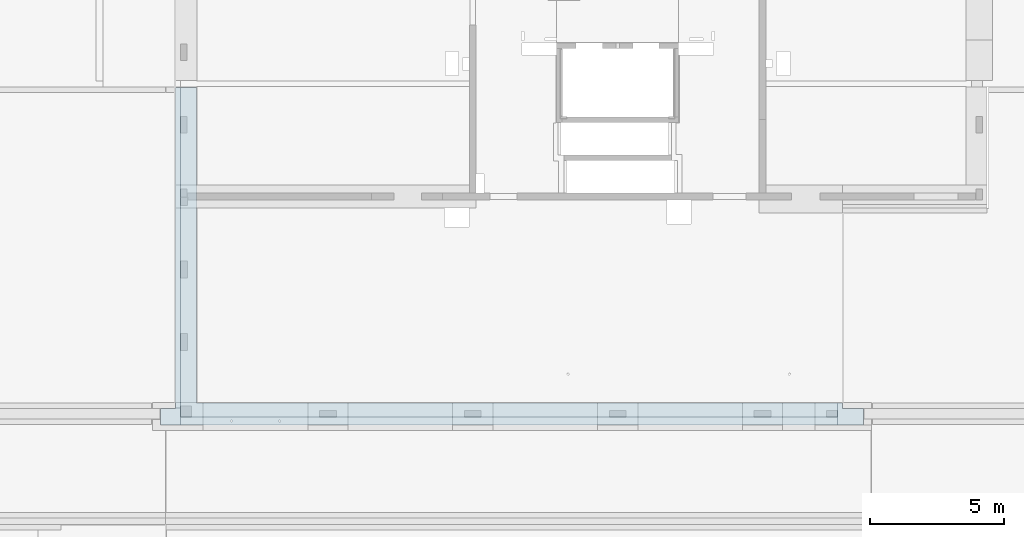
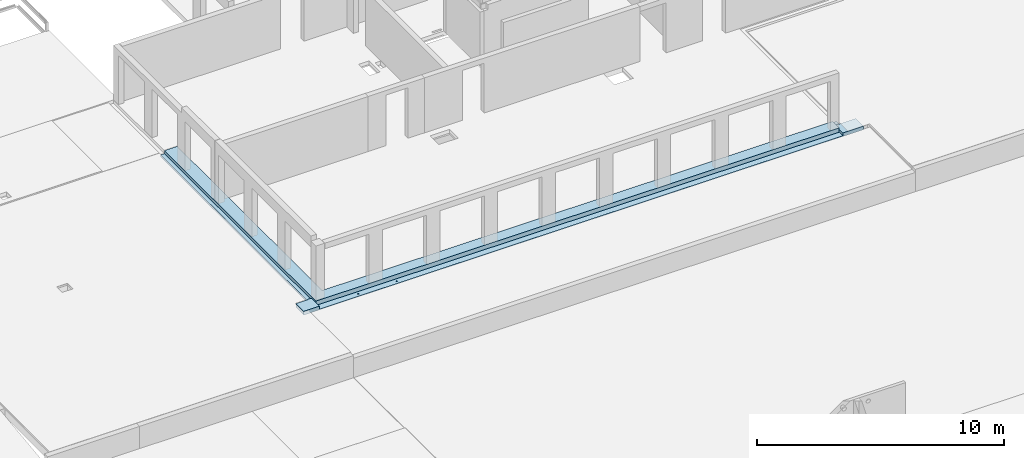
# One storey, part 33 of 36: 1 slab.
"""IFC2X3 building model written with IfcOpenShell, lengths in millimetres."""

from ifc_helpers import new_model, entity, si_unit, converted_unit, derived_unit, direction, frame, origin, place, context, subcontext, project, spatial, faceted_brep, element, save


model = new_model("IFC2X3")

# Units and contexts
model_context = context("Model", 3, precision=0.01, world=origin(), true_north=direction((6.12303176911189e-17, 1.0)))
body_context = subcontext(model_context, "Body", "Model", "MODEL_VIEW")
ifc_project = project(units=[si_unit("LENGTHUNIT", "METRE", prefix="MILLI"), si_unit("AREAUNIT", "SQUARE_METRE"), si_unit("VOLUMEUNIT", "CUBIC_METRE"), converted_unit("PLANEANGLEUNIT", "DEGREE", entity("IfcRatioMeasure", 0.0174532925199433), si_unit("PLANEANGLEUNIT", "RADIAN"), dimensions=[0, 0, 0, 0, 0, 0, 0]), si_unit("MASSUNIT", "GRAM", prefix="KILO"), derived_unit("MASSDENSITYUNIT", [(si_unit("MASSUNIT", "GRAM", prefix="KILO"), 1), (si_unit("LENGTHUNIT", "METRE"), -3)]), si_unit("TIMEUNIT", "SECOND"), si_unit("FREQUENCYUNIT", "HERTZ"), si_unit("THERMODYNAMICTEMPERATUREUNIT", "DEGREE_CELSIUS"), derived_unit("THERMALTRANSMITTANCEUNIT", [(si_unit("MASSUNIT", "GRAM", prefix="KILO"), 1), (si_unit("THERMODYNAMICTEMPERATUREUNIT", "KELVIN"), -1), (si_unit("TIMEUNIT", "SECOND"), -3)]), derived_unit("VOLUMETRICFLOWRATEUNIT", [(si_unit("LENGTHUNIT", "METRE"), 3), (si_unit("TIMEUNIT", "SECOND"), -1)]), si_unit("ELECTRICCURRENTUNIT", "AMPERE"), si_unit("ELECTRICVOLTAGEUNIT", "VOLT"), si_unit("POWERUNIT", "WATT"), si_unit("FORCEUNIT", "NEWTON", prefix="KILO"), si_unit("ILLUMINANCEUNIT", "LUX"), si_unit("LUMINOUSFLUXUNIT", "LUMEN"), si_unit("LUMINOUSINTENSITYUNIT", "CANDELA"), derived_unit("USERDEFINED", [(si_unit("MASSUNIT", "GRAM", prefix="KILO"), -1), (si_unit("LENGTHUNIT", "METRE"), -2), (si_unit("TIMEUNIT", "SECOND"), 3), (si_unit("LUMINOUSFLUXUNIT", "LUMEN"), 1)]), derived_unit("LINEARVELOCITYUNIT", [(si_unit("LENGTHUNIT", "METRE"), 1), (si_unit("TIMEUNIT", "SECOND"), -1)]), si_unit("PRESSUREUNIT", "PASCAL"), derived_unit("USERDEFINED", [(si_unit("LENGTHUNIT", "METRE"), -2), (si_unit("MASSUNIT", "GRAM", prefix="KILO"), 1), (si_unit("TIMEUNIT", "SECOND"), -2)])], contexts=[model_context])

# Site, building, storey
site_placement = place(None, origin())
site = spatial("IfcSite", under=ifc_project, at=site_placement, Name="Default", CompositionType="ELEMENT")
building_placement = place(site_placement, origin())
building = spatial("IfcBuilding", under=site, at=building_placement, Name="niet gebruiken", CompositionType="ELEMENT")
storey_placement = place(building_placement, frame((0.0, 0.0, 12600.0)))
storey = spatial("IfcBuildingStorey", under=building, at=storey_placement, Name="04 vierde verdieping", CompositionType="ELEMENT", Elevation=12600.0)

# Slab
slab_placement = place(storey_placement, origin())
element("IfcSlab", 1, at=slab_placement, inside=storey, Name="Floor:NLRS_23.21_FL_beton ihwg d=250_gen", ObjectType="Floor:NLRS_23.21_FL_beton ihwg d=250_gen", PredefinedType="FLOOR", context=body_context, shape_type="Brep", body=[
    faceted_brep([(26160.0, 28456.0, -340.0), (30581.2499999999, 28573.5240473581, -340.0), (30590.6249999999, 28573.5240473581, -340.0), (28818.7499999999, 28573.5240473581, -340.0), (30600.0, 28573.5240473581, -340.0), (30609.3749999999, 28573.5240473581, -340.0), (30618.7499999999, 28573.5240473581, -340.0), (52360.0, 28456.0, -340.0), (28809.3749999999, 28573.5240473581, -340.0), (28800.0, 28573.5240473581, -340.0), (28790.6249999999, 28573.5240473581, -340.0), (28781.2499999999, 28573.5240473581, -340.0), (27505.0, 29286.0, -340.0), (26725.0, 29081.0, -340.0), (26160.0, 29081.0, -340.0), (26725.0, 29306.0, -340.0), (26725.0, 36556.0, -340.0), (27505.0, 36576.0, -340.0), (27505.0, 37386.0, -340.0), (26725.0, 37406.0, -340.0), (27505.0, 41041.0, -340.0), (26725.0, 41041.0, -340.0), (28776.5624999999, 28581.6430355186, -340.0), (28771.8749999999, 28589.7620236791, -340.0), (28767.2728205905, 28597.7332322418, -340.0), (28762.4999999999, 28606.0, -340.0), (28767.1874999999, 28614.1189881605, -340.0), (28771.8749999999, 28622.237976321, -340.0), (28776.5624999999, 28630.3569644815, -340.0), (28781.2499999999, 28638.475952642, -340.0), (28790.6249999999, 28638.475952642, -340.0), (28800.0, 28638.475952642, -340.0), (28809.3749999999, 28638.475952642, -340.0), (28818.7499999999, 28638.475952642, -340.0), (30581.2499999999, 28638.475952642, -340.0), (30590.6249999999, 28638.475952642, -340.0), (30600.0, 28638.475952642, -340.0), (30609.3749999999, 28638.475952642, -340.0), (30618.7499999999, 28638.475952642, -340.0), (51575.0, 29286.0, -340.0), (30623.4374999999, 28630.3569644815, -340.0), (30628.1249999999, 28622.237976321, -340.0), (30632.7271793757, 28614.2667678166, -340.0), (30637.4999999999, 28606.0, -340.0), (51575.0, 29081.0, -340.0), (52360.0, 29081.0, -340.0), (30623.4374999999, 28581.6430355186, -340.0), (30628.1249999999, 28589.7620236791, -340.0), (30632.8124999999, 28597.8810118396, -340.0), (30576.5624999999, 28630.3569644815, -340.0), (30571.8749999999, 28622.237976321, -340.0), (30567.1874999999, 28614.1189881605, -340.0), (30562.4999999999, 28606.0, -340.0), (28823.4374999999, 28630.3569644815, -340.0), (28828.1249999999, 28622.237976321, -340.0), (28832.7271793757, 28614.2667678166, -340.0), (28837.4999999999, 28606.0, -340.0), (30567.2728205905, 28597.7332322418, -340.0), (30571.8749999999, 28589.7620236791, -340.0), (30576.5624999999, 28581.6430355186, -340.0), (28823.4374999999, 28581.6430355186, -340.0), (28828.1249999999, 28589.7620236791, -340.0), (28832.8124999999, 28597.8810118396, -340.0), (27505.0, 41041.0, -90.0), (26900.0, 41041.0, -90.0), (26900.0, 28756.0, -90.0), (51400.0, 28756.0, -90.0), (51400.0, 29286.0, -90.0), (27505.0, 29286.0, -90.0), (52360.0, 28456.0, -160.0), (51400.0, 28456.0, -160.0), (51400.0, 28456.0, -305.050014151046), (26900.0, 28456.0, -305.050014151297), (26900.0, 28456.0, -150.0), (26160.0, 28456.0, -150.0), (26160.0, 29081.0, -150.0), (51400.0, 29286.0, -150.0), (51575.0, 29286.0, -150.0), (51575.0, 29286.0, -270.0), (27505.0, 29286.0, -270.0), (52360.0, 29081.0, -160.0), (26725.0, 29081.0, -150.0), (51575.0, 29081.0, -160.0), (26725.0, 29101.0, -150.0), (26725.0, 29101.0, -240.0), (26725.0, 41041.0, -240.0), (27505.0, 41041.0, -240.0), (26900.0, 41041.0, -240.0), (51575.0, 29081.0, -150.0), (26900.0, 29101.0, -150.0), (26900.0, 29101.0, -240.0), (26900.0, 28756.0, -150.0), (26900.0, 28756.0, -305.050014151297), (51400.0, 28756.0, -160.0), (51400.0, 28756.0, -305.050014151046), (30618.7499999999, 28573.5240473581, -305.050014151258), (30609.3749999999, 28573.5240473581, -305.050014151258), (30600.0, 28573.5240473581, -305.050014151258), (30590.6249999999, 28573.5240473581, -305.050014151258), (30581.2499999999, 28573.5240473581, -305.050014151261), (30576.6478205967, 28581.49525591, -305.050014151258), (30572.0456411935, 28589.466464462, -305.050014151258), (30567.2728205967, 28597.733232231, -305.050014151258), (30562.4999999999, 28606.0, -305.050014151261), (28818.7499999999, 28573.5240473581, -305.050014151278), (28809.3749999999, 28573.5240473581, -305.050014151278), (28800.0, 28573.5240473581, -305.050014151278), (28790.6249999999, 28573.5240473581, -305.050014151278), (28781.2499999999, 28573.5240473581, -305.050014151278), (28776.6478205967, 28581.49525591, -305.050014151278), (28772.0456411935, 28589.466464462, -305.050014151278), (28767.2728205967, 28597.733232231, -305.050014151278), (28762.4999999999, 28606.0, -305.050014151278), (28781.2499999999, 28638.475952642, -305.050014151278), (28790.6249999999, 28638.475952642, -305.050014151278), (28800.0, 28638.475952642, -305.050014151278), (28809.3749999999, 28638.475952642, -305.050014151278), (28818.7499999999, 28638.475952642, -305.050014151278), (30581.2499999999, 28638.475952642, -305.050014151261), (30590.6249999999, 28638.475952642, -305.050014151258), (30600.0, 28638.475952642, -305.050014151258), (30609.3749999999, 28638.475952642, -305.050014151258), (30618.7499999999, 28638.475952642, -305.050014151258), (30623.3521793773, 28630.5047441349, -305.050014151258), (30627.9543587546, 28622.5335356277, -305.050014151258), (30632.7271793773, 28614.2667678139, -305.050014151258), (30637.4999999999, 28606.0, -305.050014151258), (28823.3521793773, 28630.5047441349, -305.050014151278), (28827.9543587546, 28622.5335356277, -305.050014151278), (28832.7271793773, 28614.2667678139, -305.050014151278), (28837.4999999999, 28606.0, -305.050014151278), (28767.2728201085, 28614.2667669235, -305.012731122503), (28832.7271798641, 28597.7332330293, -305.012731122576), (30632.7271798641, 28597.7332330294, -305.01273112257), (30567.2728201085, 28614.2667669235, -305.012731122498), (51400.0, 29081.0, -150.0), (51400.0, 29081.0, -160.0), (28823.4374999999, 28581.6430355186, -305.037510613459), (28828.1249999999, 28589.7620236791, -305.025007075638), (28776.5624999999, 28630.3569644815, -305.037510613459), (28771.8749999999, 28622.237976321, -305.025007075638), (30623.4374999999, 28581.6430355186, -305.037510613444), (30628.1249999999, 28589.7620236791, -305.025007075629), (30576.5624999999, 28630.3569644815, -305.037510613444), (30571.8749999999, 28622.237976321, -305.025007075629)], [[[0, 1, 2]], [[3, 1, 0]], [[0, 2, 4]], [[0, 4, 5]], [[0, 5, 6]], [[0, 6, 7]], [[0, 8, 3]], [[0, 9, 8]], [[0, 10, 9]], [[0, 11, 10]], [[0, 12, 11]], [[13, 12, 0]], [[0, 14, 13]], [[15, 12, 13]], [[12, 15, 16]], [[16, 17, 12]], [[16, 18, 17]], [[16, 19, 18]], [[18, 19, 20]], [[19, 21, 20]], [[12, 22, 11]], [[12, 23, 22]], [[12, 24, 23]], [[12, 25, 24]], [[12, 26, 25]], [[12, 27, 26]], [[12, 28, 27]], [[12, 29, 28]], [[12, 30, 29]], [[12, 31, 30]], [[12, 32, 31]], [[12, 33, 32]], [[12, 34, 33]], [[12, 35, 34]], [[12, 36, 35]], [[12, 37, 36]], [[12, 38, 37]], [[39, 38, 12]], [[39, 40, 38]], [[39, 41, 40]], [[39, 42, 41]], [[39, 43, 42]], [[39, 44, 43]], [[44, 7, 6]], [[45, 7, 44]], [[44, 6, 46]], [[44, 46, 47]], [[44, 47, 48]], [[44, 48, 43]], [[33, 34, 49]], [[33, 49, 50]], [[33, 50, 51]], [[33, 51, 52]], [[52, 53, 33]], [[52, 54, 53]], [[52, 55, 54]], [[52, 56, 55]], [[56, 52, 57]], [[56, 57, 58]], [[56, 58, 59]], [[56, 59, 1]], [[1, 3, 60]], [[1, 60, 61]], [[1, 61, 62]], [[1, 62, 56]], [[63, 64, 65, 66, 67, 68]], [[7, 69, 70, 71, 72, 73, 74, 0]], [[14, 0, 74, 75]], [[76, 77, 78, 39, 12, 79, 68, 67]], [[7, 45, 80, 69]], [[13, 14, 75, 81]], [[45, 44, 82, 80]], [[21, 19, 16, 15, 13, 81, 83, 84, 85]], [[86, 20, 21, 85, 87, 64, 63]], [[17, 18, 20, 86, 63, 68, 79, 12]], [[44, 39, 78, 77, 88, 82]], [[83, 89, 90, 84]], [[89, 91, 65, 64, 87, 90]], [[90, 87, 85, 84]], [[92, 91, 73, 72]], [[70, 93, 94, 71]], [[66, 65, 91, 92, 94, 93]], [[72, 71, 95, 96, 97, 98, 99, 100, 101, 102, 103, 104, 105, 106, 107, 108, 109, 110, 111, 112, 92]], [[92, 113, 114, 115, 116, 117, 118, 119, 120, 121, 122, 123, 124, 125, 126, 71, 94]], [[103, 117, 127, 128, 129, 130]], [[92, 112, 131]], [[103, 130, 132]], [[71, 126, 133]], [[117, 103, 134]], [[135, 76, 67, 66, 93, 136]], [[88, 135, 136, 82]], [[82, 136, 93, 70, 69, 80]], [[81, 75, 74, 73, 91, 89, 83]], [[135, 88, 77, 76]], [[105, 104, 3, 8, 9, 10, 11, 108, 107, 106]], [[96, 95, 6, 5, 4, 2, 1, 99, 98, 97]], [[61, 60, 3, 104, 137, 138, 132, 130, 56, 62]], [[110, 109, 108, 11, 22, 23, 24, 25, 112, 111]], [[113, 29, 30, 31, 32, 33, 117, 116, 115, 114]], [[118, 34, 35, 36, 37, 38, 122, 121, 120, 119]], [[27, 28, 29, 113, 139, 140, 131, 112, 25, 26]], [[128, 127, 117, 33, 53, 54, 55, 56, 130, 129]], [[47, 46, 6, 95, 141, 142, 133, 126, 43, 48]], [[101, 100, 99, 1, 59, 58, 57, 52, 103, 102]], [[50, 49, 34, 118, 143, 144, 134, 103, 52, 51]], [[124, 123, 122, 38, 40, 41, 42, 43, 126, 125]], [[92, 131, 140, 139, 113]], [[103, 132, 138, 137, 104]], [[71, 133, 142, 141, 95]], [[117, 134, 144, 143, 118]]]),
])

save(model, "model.ifc")
